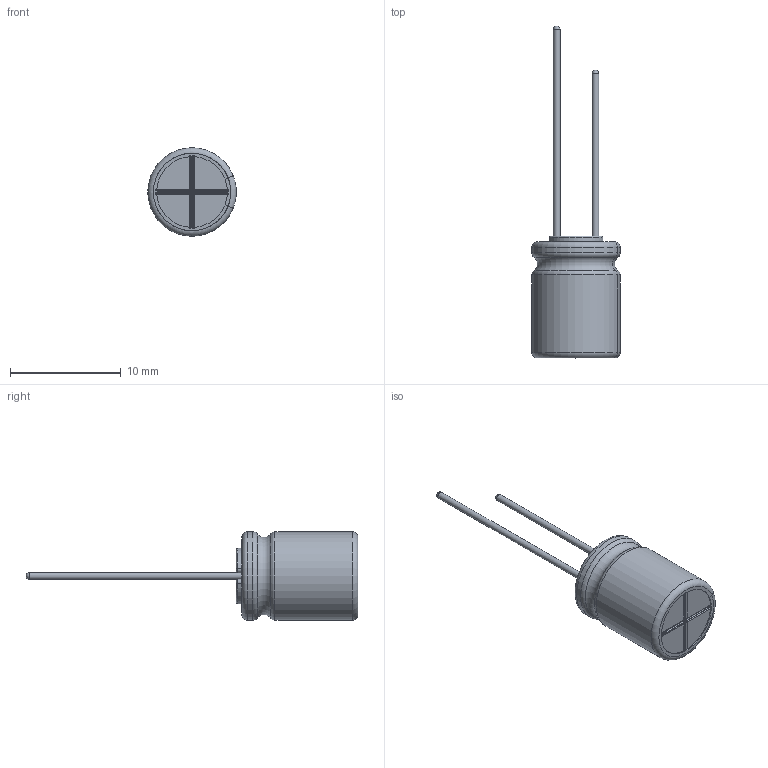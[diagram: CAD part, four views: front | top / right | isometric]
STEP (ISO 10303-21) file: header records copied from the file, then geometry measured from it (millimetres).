
FILE_DESCRIPTION(/* description */ (''),/* implementation_level */ '2;1');
FILE_NAME(/* name */ '8x11_Lead.stp',/* time_stamp */ '2017-09-05T13:54:20+09:00',/* author */ (''),/* organization */ (''),/* preprocessor_version */ 'ST-DEVELOPER v16',/* originating_system */ 'SIEMENS PLM Software NX 11.0',/* authorisation */ '');
FILE_SCHEMA (('AUTOMOTIVE_DESIGN { 1 0 10303 214 3 1 1 1 }'));
Length unit declared in the file: millimetre
Products named in the file (1): 8x11_Lead_0
Bounding box: 7.99 x 30 x 8 mm (x, y, z)
Volume: 526.1 mm3; surface area: 1002.3 mm2
Topology: 3 solids, 3 shells, 115 faces, 288 edges, 181 vertices
Faces by surface type: cylinder 44, torus 33, plane 28, sphere 6, bspline 4
Full cylindrical faces by diameter (mm): 0.6 x2, 7.8 x2
Entity records: 4020 total; most frequent: CARTESIAN_POINT 680, DIRECTION 664, ORIENTED_EDGE 544, AXIS2_PLACEMENT_3D 280, EDGE_CURVE 272, VERTEX_POINT 176, CIRCLE 160, EDGE_LOOP 128
